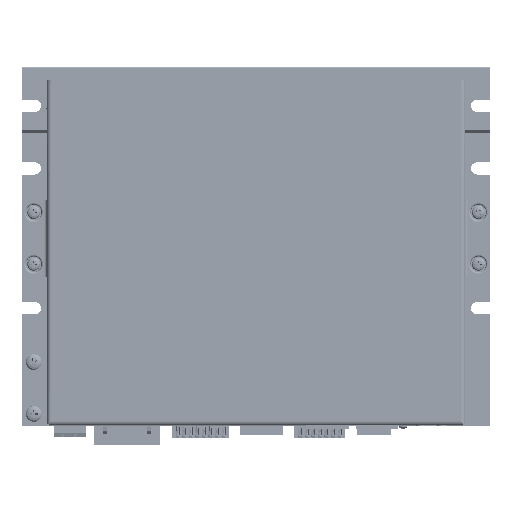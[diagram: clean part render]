
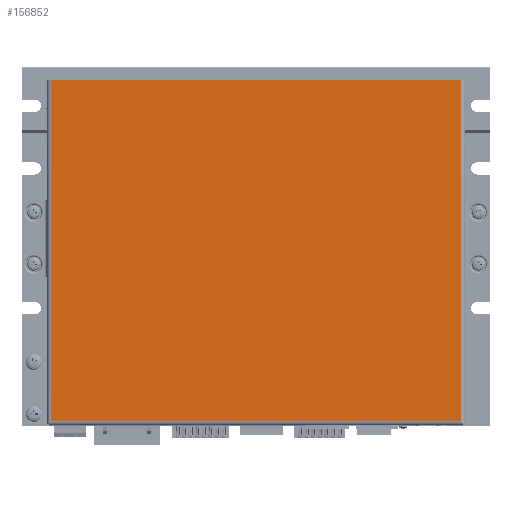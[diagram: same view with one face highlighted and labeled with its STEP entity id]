
A CAD part, top view. The second image highlights one B-rep face of the part: STEP entity #156852.
In plain terms, the highlighted planar face has unit normal (0, 0, 1).
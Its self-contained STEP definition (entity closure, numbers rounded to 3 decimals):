
#18136=LINE('',#242926,#32449);
#18163=LINE('',#243025,#32476);
#18164=LINE('',#243027,#32477);
#18165=LINE('',#243029,#32478);
#32449=VECTOR('',#198846,1000.);
#32476=VECTOR('',#198963,1000.);
#32477=VECTOR('',#198964,1000.);
#32478=VECTOR('',#198965,1000.);
#66948=ORIENTED_EDGE('',*,*,#86789,.T.);
#66949=ORIENTED_EDGE('',*,*,#86790,.T.);
#66950=ORIENTED_EDGE('',*,*,#86791,.T.);
#66951=ORIENTED_EDGE('',*,*,#86743,.T.);
#86743=EDGE_CURVE('',#99292,#99291,#18136,.T.);
#86789=EDGE_CURVE('',#99291,#99319,#18163,.T.);
#86790=EDGE_CURVE('',#99319,#99320,#18164,.T.);
#86791=EDGE_CURVE('',#99320,#99292,#18165,.T.);
#99291=VERTEX_POINT('',#242925);
#99292=VERTEX_POINT('',#242927);
#99319=VERTEX_POINT('',#243026);
#99320=VERTEX_POINT('',#243028);
#108541=EDGE_LOOP('',(#66948,#66949,#66950,#66951));
#116919=FACE_BOUND('',#108541,.T.);
#122567=PLANE('',#166840);
#156852=ADVANCED_FACE('',(#116919),#122567,.T.);
#166840=AXIS2_PLACEMENT_3D('',#243024,#198961,#198962);
#198846=DIRECTION('',(-1.,0.,0.));
#198961=DIRECTION('',(0.,0.,1.));
#198962=DIRECTION('',(1.,0.,0.));
#198963=DIRECTION('',(0.,-1.,0.));
#198964=DIRECTION('',(1.,0.,0.));
#198965=DIRECTION('',(0.,1.,0.));
#242925=CARTESIAN_POINT('',(-79.05,66.75,0.));
#242926=CARTESIAN_POINT('',(80.75,66.75,0.));
#242927=CARTESIAN_POINT('',(79.05,66.75,0.));
#243024=CARTESIAN_POINT('',(0.,0.,0.));
#243025=CARTESIAN_POINT('',(-79.05,66.75,0.));
#243026=CARTESIAN_POINT('',(-79.05,-65.05,0.));
#243027=CARTESIAN_POINT('',(-79.05,-65.05,0.));
#243028=CARTESIAN_POINT('',(79.05,-65.05,0.));
#243029=CARTESIAN_POINT('',(79.05,-66.75,0.));
